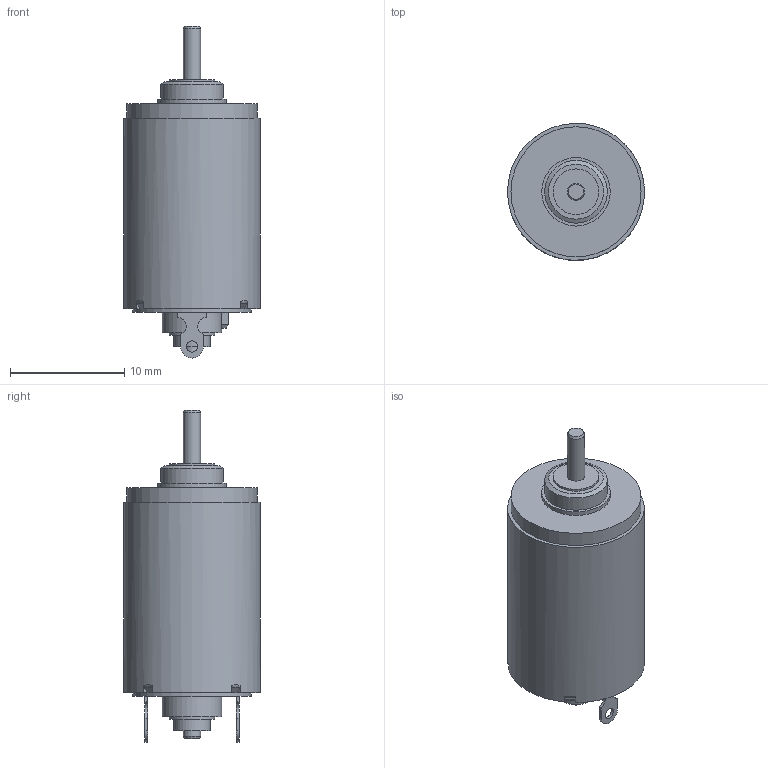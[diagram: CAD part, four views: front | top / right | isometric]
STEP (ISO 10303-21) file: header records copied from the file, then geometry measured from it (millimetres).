
FILE_DESCRIPTION(/* description */ (''),/* implementation_level */ '2;1');
FILE_NAME(/* name */ '1218SXR.stp',/* time_stamp */ '2024-10-29T10:38:42+01:00',/* author */ ('DR. FRITZ FAULHABER GmbH & Co. KG'),/* organization */ ('DR. FRITZ FAULHABER GmbH & Co. KG'),/* preprocessor_version */ 'ST-DEVELOPER v19.3',/* originating_system */ 'SIEMENS PLM Software NX2212.4000',/* authorisation */ '');
FILE_SCHEMA (('AUTOMOTIVE_DESIGN { 1 0 10303 214 3 1 1 1 }'));
Length unit declared in the file: millimetre
Products named in the file (1): A_objects
Bounding box: 12 x 12 x 29.1 mm (x, y, z)
Volume: 2156.9 mm3; surface area: 1044.5 mm2
Topology: 1 solids, 1 shells, 92 faces, 224 edges, 148 vertices
Faces by surface type: plane 57, cylinder 28, bspline 4, cone 3
Full cylindrical faces by diameter (mm): 1 x2, 1.2 x1, 1.5 x2, 3.2 x1, 4 x2, 5.2 x1, 5.5 x1, 6 x1, 10.4 x1, 11.4 x1, 12 x1
Entity records: 2697 total; most frequent: CARTESIAN_POINT 534, DIRECTION 447, ORIENTED_EDGE 408, EDGE_CURVE 204, AXIS2_PLACEMENT_3D 162, VERTEX_POINT 145, EDGE_LOOP 127, LINE 123
